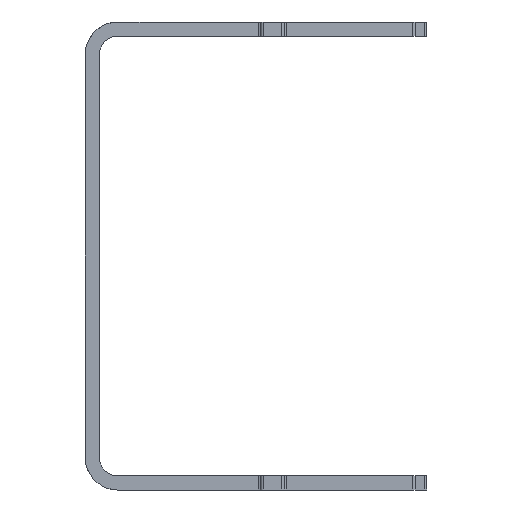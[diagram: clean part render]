
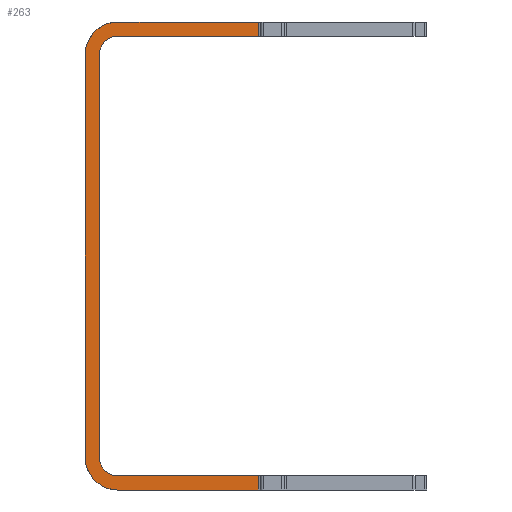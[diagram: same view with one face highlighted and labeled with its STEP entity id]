
A CAD part, left-side view. The second image highlights one B-rep face of the part: STEP entity #263.
In plain terms, the highlighted planar face has unit normal (-1, 0, 0).
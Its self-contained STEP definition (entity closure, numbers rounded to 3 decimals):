
#133=PLANE('',#5410);
#263=ADVANCED_FACE('',(#670),#133,.T.);
#670=FACE_OUTER_BOUND('',#919,.T.);
#919=EDGE_LOOP('',(#2531,#2532,#2533,#2534,#2535,#2536,#2537,#2538,#2539,
#2540,#2541,#2542));
#1263=LINE('',#7543,#1760);
#1264=LINE('',#7546,#1761);
#1265=LINE('',#7548,#1762);
#1266=LINE('',#7552,#1763);
#1267=LINE('',#7556,#1764);
#1268=LINE('',#7558,#1765);
#1269=LINE('',#7560,#1766);
#1270=LINE('',#7564,#1767);
#1760=VECTOR('',#5952,1.);
#1761=VECTOR('',#5953,1.);
#1762=VECTOR('',#5954,1.);
#1763=VECTOR('',#5957,1.);
#1764=VECTOR('',#5960,1.);
#1765=VECTOR('',#5961,1.);
#1766=VECTOR('',#5962,1.);
#1767=VECTOR('',#5965,1.);
#2255=CIRCLE('',#5406,8.);
#2256=CIRCLE('',#5407,8.);
#2257=CIRCLE('',#5408,14.);
#2258=CIRCLE('',#5409,14.);
#2531=ORIENTED_EDGE('',*,*,#4617,.F.);
#2532=ORIENTED_EDGE('',*,*,#4618,.T.);
#2533=ORIENTED_EDGE('',*,*,#4619,.T.);
#2534=ORIENTED_EDGE('',*,*,#4620,.T.);
#2535=ORIENTED_EDGE('',*,*,#4621,.T.);
#2536=ORIENTED_EDGE('',*,*,#4622,.T.);
#2537=ORIENTED_EDGE('',*,*,#4623,.T.);
#2538=ORIENTED_EDGE('',*,*,#4624,.T.);
#2539=ORIENTED_EDGE('',*,*,#4625,.T.);
#2540=ORIENTED_EDGE('',*,*,#4626,.F.);
#2541=ORIENTED_EDGE('',*,*,#4627,.F.);
#2542=ORIENTED_EDGE('',*,*,#4628,.F.);
#4089=VERTEX_POINT('',#7544);
#4090=VERTEX_POINT('',#7545);
#4091=VERTEX_POINT('',#7547);
#4092=VERTEX_POINT('',#7549);
#4093=VERTEX_POINT('',#7551);
#4094=VERTEX_POINT('',#7553);
#4095=VERTEX_POINT('',#7555);
#4096=VERTEX_POINT('',#7557);
#4097=VERTEX_POINT('',#7559);
#4098=VERTEX_POINT('',#7561);
#4099=VERTEX_POINT('',#7563);
#4100=VERTEX_POINT('',#7565);
#4617=EDGE_CURVE('',#4089,#4090,#1263,.T.);
#4618=EDGE_CURVE('',#4089,#4091,#1264,.T.);
#4619=EDGE_CURVE('',#4091,#4092,#1265,.T.);
#4620=EDGE_CURVE('',#4092,#4093,#2255,.T.);
#4621=EDGE_CURVE('',#4093,#4094,#1266,.T.);
#4622=EDGE_CURVE('',#4094,#4095,#2256,.T.);
#4623=EDGE_CURVE('',#4095,#4096,#1267,.T.);
#4624=EDGE_CURVE('',#4096,#4097,#1268,.T.);
#4625=EDGE_CURVE('',#4097,#4098,#1269,.T.);
#4626=EDGE_CURVE('',#4099,#4098,#2257,.T.);
#4627=EDGE_CURVE('',#4100,#4099,#1270,.T.);
#4628=EDGE_CURVE('',#4090,#4100,#2258,.T.);
#5406=AXIS2_PLACEMENT_3D('',#7550,#5955,#5956);
#5407=AXIS2_PLACEMENT_3D('',#7554,#5958,#5959);
#5408=AXIS2_PLACEMENT_3D('',#7562,#5963,#5964);
#5409=AXIS2_PLACEMENT_3D('',#7566,#5966,#5967);
#5410=AXIS2_PLACEMENT_3D('',#7567,#5968,#5969);
#5952=DIRECTION('',(0.,1.,0.));
#5953=DIRECTION('',(0.,0.,1.));
#5954=DIRECTION('',(0.,1.,0.));
#5955=DIRECTION('',(1.,0.,0.));
#5956=DIRECTION('',(0.,0.,1.));
#5957=DIRECTION('',(0.,0.,1.));
#5958=DIRECTION('',(1.,0.,0.));
#5959=DIRECTION('',(0.,0.,-1.));
#5960=DIRECTION('',(0.,-1.,0.));
#5961=DIRECTION('',(0.,0.,1.));
#5962=DIRECTION('',(0.,1.,0.));
#5963=DIRECTION('',(1.,0.,0.));
#5964=DIRECTION('',(0.,-1.,0.));
#5965=DIRECTION('',(0.,0.,1.));
#5966=DIRECTION('',(1.,0.,0.));
#5967=DIRECTION('',(0.,-1.,0.));
#5968=DIRECTION('',(-1.,0.,0.));
#5969=DIRECTION('',(0.,0.,1.));
#7543=CARTESIAN_POINT('',(611.,-6.6,-200.));
#7544=CARTESIAN_POINT('',(611.,66.,-200.));
#7545=CARTESIAN_POINT('',(611.,126.,-200.));
#7546=CARTESIAN_POINT('',(611.,66.,-194.));
#7547=CARTESIAN_POINT('',(611.,66.,-194.));
#7548=CARTESIAN_POINT('',(611.,0.,-194.));
#7549=CARTESIAN_POINT('',(611.,126.,-194.));
#7550=CARTESIAN_POINT('',(611.,126.,-186.));
#7551=CARTESIAN_POINT('',(611.,134.,-186.));
#7552=CARTESIAN_POINT('',(611.,134.,-200.));
#7553=CARTESIAN_POINT('',(611.,134.,-14.));
#7554=CARTESIAN_POINT('',(611.,126.,-14.));
#7555=CARTESIAN_POINT('',(611.,126.,-6.));
#7556=CARTESIAN_POINT('',(611.,140.,-6.));
#7557=CARTESIAN_POINT('',(611.,66.,-6.));
#7558=CARTESIAN_POINT('',(611.,66.,0.));
#7559=CARTESIAN_POINT('',(611.,66.,0.));
#7560=CARTESIAN_POINT('',(611.,-6.6,0.));
#7561=CARTESIAN_POINT('',(611.,126.,0.));
#7562=CARTESIAN_POINT('',(611.,126.,-14.));
#7563=CARTESIAN_POINT('',(611.,140.,-14.));
#7564=CARTESIAN_POINT('',(611.,140.,-200.));
#7565=CARTESIAN_POINT('',(611.,140.,-186.));
#7566=CARTESIAN_POINT('',(611.,126.,-186.));
#7567=CARTESIAN_POINT('',(611.,-6.6,-200.));
